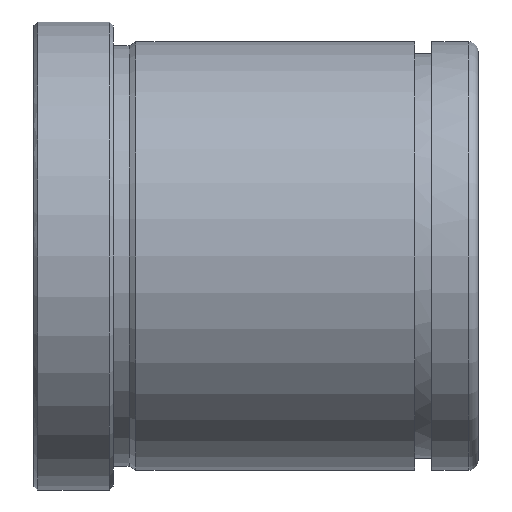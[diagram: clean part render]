
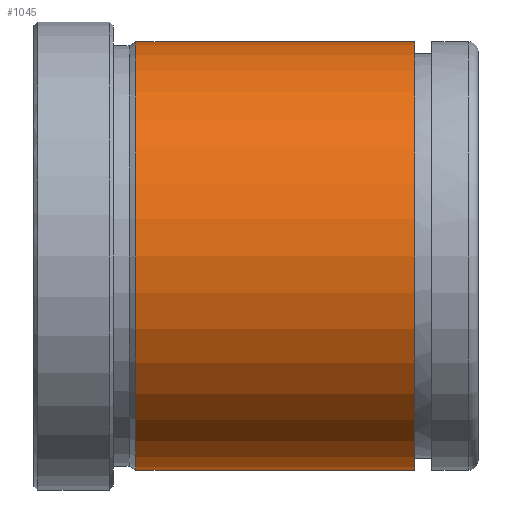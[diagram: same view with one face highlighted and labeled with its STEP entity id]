
A CAD part, front view. The second image highlights one B-rep face of the part: STEP entity #1045.
In plain terms, the highlighted cylindrical face has radius 27 mm (diameter 54 mm), a partial arc.
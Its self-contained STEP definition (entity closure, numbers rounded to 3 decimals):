
#851=CARTESIAN_POINT('Vertex',(12.866,0.,-27.)) ;
#858=CARTESIAN_POINT('Vertex',(12.866,0.,27.)) ;
#887=CARTESIAN_POINT('Axis2P3D Location',(12.866,0.,0.)) ;
#891=CARTESIAN_POINT('Vertex',(12.866,-27.,0.)) ;
#894=CARTESIAN_POINT('Axis2P3D Location',(12.866,0.,0.)) ;
#985=CARTESIAN_POINT('Line Origine',(112.,0.,27.)) ;
#989=CARTESIAN_POINT('Vertex',(48.,0.,27.)) ;
#1003=CARTESIAN_POINT('Vertex',(48.,0.,-27.)) ;
#1006=CARTESIAN_POINT('Line Origine',(112.,0.,-27.)) ;
#1020=CARTESIAN_POINT('Axis2P3D Location',(112.,0.,0.)) ;
#1025=CARTESIAN_POINT('Axis2P3D Location',(48.,0.,0.)) ;
#1029=CARTESIAN_POINT('Vertex',(48.,-27.,0.)) ;
#1032=CARTESIAN_POINT('Axis2P3D Location',(48.,0.,0.)) ;
#888=DIRECTION('Axis2P3D Direction',(1.,0.,-0.)) ;
#895=DIRECTION('Axis2P3D Direction',(1.,0.,-0.)) ;
#986=DIRECTION('Vector Direction',(-1.,0.,0.)) ;
#1007=DIRECTION('Vector Direction',(-1.,0.,0.)) ;
#1021=DIRECTION('Axis2P3D Direction',(-1.,-0.,-0.)) ;
#1022=DIRECTION('Axis2P3D XDirection',(0.,0.,-1.)) ;
#1026=DIRECTION('Axis2P3D Direction',(-1.,-0.,-0.)) ;
#1033=DIRECTION('Axis2P3D Direction',(-1.,-0.,-0.)) ;
#889=AXIS2_PLACEMENT_3D('Circle Axis2P3D',#887,#888,$) ;
#896=AXIS2_PLACEMENT_3D('Circle Axis2P3D',#894,#895,$) ;
#1023=AXIS2_PLACEMENT_3D('Cylinder Axis2P3D',#1020,#1021,#1022) ;
#1027=AXIS2_PLACEMENT_3D('Circle Axis2P3D',#1025,#1026,$) ;
#1034=AXIS2_PLACEMENT_3D('Circle Axis2P3D',#1032,#1033,$) ;
#1038=ORIENTED_EDGE('',*,*,#1010,.T.) ;
#1039=ORIENTED_EDGE('',*,*,#1031,.F.) ;
#1040=ORIENTED_EDGE('',*,*,#1036,.F.) ;
#1041=ORIENTED_EDGE('',*,*,#991,.T.) ;
#1042=ORIENTED_EDGE('',*,*,#898,.T.) ;
#1043=ORIENTED_EDGE('',*,*,#893,.T.) ;
#987=VECTOR('Line Direction',#986,1.) ;
#1008=VECTOR('Line Direction',#1007,1.) ;
#1045=ADVANCED_FACE('553-42X56',(#1044),#1024,.T.) ;
#890=CIRCLE('generated circle',#889,27.) ;
#897=CIRCLE('generated circle',#896,27.) ;
#1028=CIRCLE('generated circle',#1027,27.) ;
#1035=CIRCLE('generated circle',#1034,27.) ;
#1024=CYLINDRICAL_SURFACE('generated cylinder',#1023,27.) ;
#893=EDGE_CURVE('',#892,#852,#890,.T.) ;
#898=EDGE_CURVE('',#859,#892,#897,.T.) ;
#991=EDGE_CURVE('',#990,#859,#988,.T.) ;
#1010=EDGE_CURVE('',#852,#1004,#1009,.F.) ;
#1031=EDGE_CURVE('',#1030,#1004,#1028,.F.) ;
#1036=EDGE_CURVE('',#990,#1030,#1035,.F.) ;
#1037=EDGE_LOOP('',(#1038,#1039,#1040,#1041,#1042,#1043)) ;
#1044=FACE_OUTER_BOUND('',#1037,.T.) ;
#988=LINE('Line',#985,#987) ;
#1009=LINE('Line',#1006,#1008) ;
#852=VERTEX_POINT('',#851) ;
#859=VERTEX_POINT('',#858) ;
#892=VERTEX_POINT('',#891) ;
#990=VERTEX_POINT('',#989) ;
#1004=VERTEX_POINT('',#1003) ;
#1030=VERTEX_POINT('',#1029) ;
